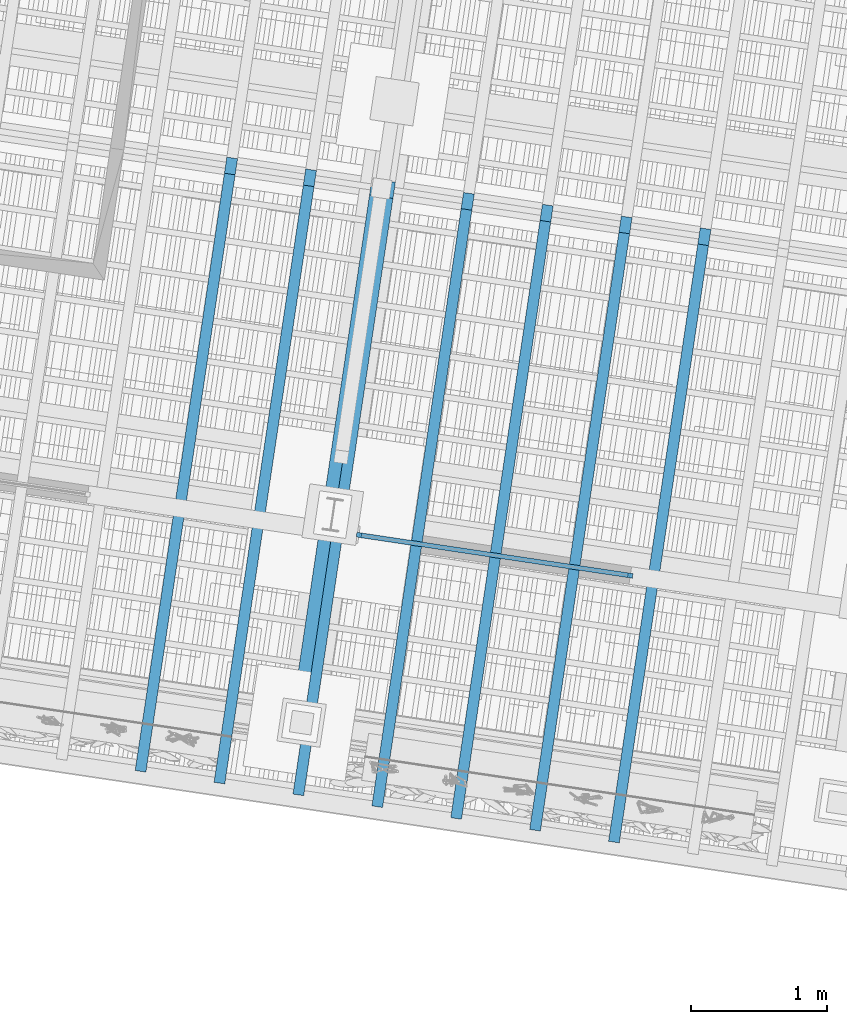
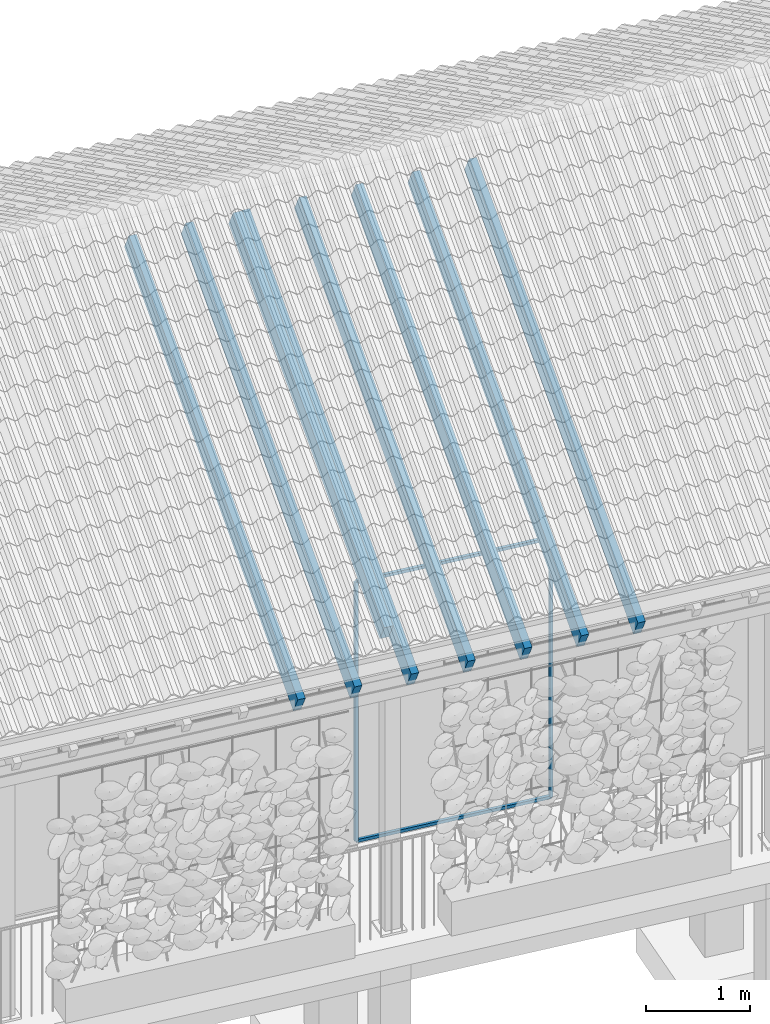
# One storey, part 93 of 131: 12 members, 1 element without a shape of its own.
"""IFC4 building model written with IfcOpenShell, lengths in metres."""

import ifcopenshell
import ifcopenshell.guid

model = None  # the IFC model being written
_history = None  # IfcOwnerHistory: only IFC2X3 demands one
_inside = {}  # id of a spatial element -> (the spatial element, [elements in it])
_under = {}  # id of a project, library or spatial element -> (it, [spatial elements below it])
_declared = {}  # id of a project -> (the project, [libraries it declares])
_typed = {}  # id of a type object -> (the type object, [elements of that type])
_made_of = {}  # id of a material, layer set ... -> (it, [elements and type objects made of it])


def new_model(schema):
    """Start an empty IFC model of exactly this schema.

    Asked for "IFC4X3", IfcOpenShell would pick the latest addendum, in which some entities
    have other attributes; the version numbers below select the first issue.
    IFC2X3 requires an IfcOwnerHistory on every rooted entity: one is made here for all.
    """
    global model, _history
    if schema == "IFC4X3":
        model = ifcopenshell.file(schema_version=(4, 3, 0, 0))
    else:
        model = ifcopenshell.file(schema=schema)
    _inside.clear()
    _under.clear()
    _declared.clear()
    _typed.clear()
    _made_of.clear()
    _history = None
    if model.schema == "IFC2X3":
        org = make("IfcOrganization", Name="unknown")
        user = make(
            "IfcPersonAndOrganization",
            ThePerson=make("IfcPerson", FamilyName="unknown"),
            TheOrganization=org,
        )
        app = make(
            "IfcApplication",
            ApplicationDeveloper=org,
            Version="unknown",
            ApplicationFullName="unknown",
            ApplicationIdentifier="unknown",
        )
        _history = make(
            "IfcOwnerHistory",
            OwningUser=user,
            OwningApplication=app,
            ChangeAction="ADDED",
            CreationDate=0,
        )
    return model


def make(cls, **values):
    """One entity of the class cls with the attributes given. An attribute that is None is left unset."""
    return model.create_entity(
        cls, **{name: value for name, value in values.items() if value is not None}
    )


def rooted(cls, **values):
    """An entity with a GlobalId (a new one), such as an element, a storey or a relation."""
    return make(cls, GlobalId=ifcopenshell.guid.new(), OwnerHistory=_history, **values)


def si_unit(unit_type, name, prefix=None):
    """IfcSIUnit, for example si_unit("LENGTHUNIT", "METRE", prefix="MILLI")."""
    return make("IfcSIUnit", UnitType=unit_type, Prefix=prefix, Name=name)


def assignment(units):
    """IfcUnitAssignment: the units of a project."""
    return None if units is None else make("IfcUnitAssignment", Units=units)


def point(xyz):
    """IfcCartesianPoint."""
    return None if xyz is None else make("IfcCartesianPoint", Coordinates=xyz)


def direction(xyz):
    """IfcDirection."""
    return None if xyz is None else make("IfcDirection", DirectionRatios=xyz)


def frame(location, z_axis=None, x_axis=None):
    """IfcAxis2Placement3D, a coordinate frame: its origin and axes. An axis left out is left unset."""
    return make(
        "IfcAxis2Placement3D",
        Location=point(location),
        Axis=direction(z_axis),
        RefDirection=direction(x_axis),
    )


def origin_with_axes():
    """The frame at (0, 0, 0) with the z axis (0, 0, 1) and the x axis (1, 0, 0) written out."""
    return frame((0.0, 0.0, 0.0), z_axis=(0.0, 0.0, 1.0), x_axis=(1.0, 0.0, 0.0))


def place(relative_to, where):
    """IfcLocalPlacement: puts the frame where relative to a parent placement (None: the world)."""
    return make(
        "IfcLocalPlacement", PlacementRelTo=relative_to, RelativePlacement=where
    )


def context(
    kind, dimensions, precision=None, world=None, true_north=None, identifier=None
):
    """IfcGeometricRepresentationContext, for example the 3D "Model" context."""
    return make(
        "IfcGeometricRepresentationContext",
        ContextIdentifier=identifier,
        ContextType=kind,
        CoordinateSpaceDimension=dimensions,
        Precision=precision,
        WorldCoordinateSystem=world,
        TrueNorth=true_north,
    )


def subcontext(parent, identifier, kind, view, scale=None):
    """IfcGeometricRepresentationSubContext, for example "Body" below "Model"."""
    return make(
        "IfcGeometricRepresentationSubContext",
        ContextIdentifier=identifier,
        ContextType=kind,
        ParentContext=parent,
        TargetScale=scale,
        TargetView=view,
    )


def project(units=None, contexts=None):
    """IfcProject with its units and contexts."""
    return rooted(
        "IfcProject",
        Name="project",
        RepresentationContexts=contexts,
        UnitsInContext=assignment(units),
    )


def spatial(cls, under=None, at=None, **own):
    """A site, building, storey or space (cls), placed at a placement, below another one or the project."""
    s = rooted(cls, ObjectPlacement=at, **own)
    if under is not None:
        _under.setdefault(under.id(), (under, []))[1].append(s)
    return s


def profile(cls, at=None, kind="AREA", **sizes):
    """A parametric profile (cls). Its sizes go by their IFC names, for example OverallWidth=200.0."""
    return make(cls, ProfileType=kind, Position=at, **sizes)


def rectangle(**sizes):
    """IfcRectangleProfileDef."""
    return profile("IfcRectangleProfileDef", **sizes)


def extrude(swept, where, along, depth):
    """IfcExtrudedAreaSolid: the profile swept, set in the frame where, extruded along a direction by depth."""
    return make(
        "IfcExtrudedAreaSolid",
        SweptArea=swept,
        Position=where,
        ExtrudedDirection=direction(along),
        Depth=depth,
    )


def shape(context_of_items, identifier, shape_type, items):
    """IfcShapeRepresentation: the items that make up one representation, for example the "Body"."""
    return make(
        "IfcShapeRepresentation",
        ContextOfItems=context_of_items,
        RepresentationIdentifier=identifier,
        RepresentationType=shape_type,
        Items=items,
    )


def material(Name=None, Category=None):
    """IfcMaterial."""
    return make("IfcMaterial", Name=Name, Category=Category)


def material_profile(
    of_material, cross_section, Name=None, Category=None, Priority=None
):
    """IfcMaterialProfile: a cross section and its material."""
    return make(
        "IfcMaterialProfile",
        Name=Name,
        Material=of_material,
        Profile=cross_section,
        Priority=Priority,
        Category=Category,
    )


def profile_set(profiles, Name=None, composite=None):
    """IfcMaterialProfileSet."""
    return make(
        "IfcMaterialProfileSet",
        Name=Name,
        MaterialProfiles=profiles,
        CompositeProfile=composite,
    )


def profile_usage(for_profile_set, cardinal=None, extent=None):
    """IfcMaterialProfileSetUsage: how a profile set lies along its element."""
    return make(
        "IfcMaterialProfileSetUsage",
        ForProfileSet=for_profile_set,
        CardinalPoint=cardinal,
        ReferenceExtent=extent,
    )


def made_of(thing, what):
    """Note that an element or type object is made of a material, layer set ...; save() writes the relation."""
    if what is not None:
        _made_of.setdefault(what.id(), (what, []))[1].append(thing)
    return thing


def type_object(cls, material=None, **own):
    """A type object (cls), such as IfcWallType, which elements share."""
    return made_of(rooted(cls, **own), material)


def element(
    cls,
    number,
    at=None,
    inside=None,
    cuts=None,
    type_object=None,
    material=None,
    context=None,
    identifier="Body",
    shape_type=None,
    held_by="IfcProductDefinitionShape",
    body=None,
    shapes=None,
    **own,
):
    """One element of the class cls, such as IfcWall. Its Tag is "e" and its number.

    at: its placement. inside: the storey or other place that contains it. cuts: it is an
    opening in that element (IfcRelVoidsElement). A single representation is given by context,
    identifier, shape_type and body (its items); several are given by shapes. held_by: the class
    of the entity that holds the representations. save() writes the other relations.
    """
    e = rooted(cls, Tag="e%d" % number, ObjectPlacement=at, **own)
    if body is not None:
        shapes = [shape(context, identifier, shape_type, body)]
    if shapes is not None:
        e.Representation = make(held_by, Representations=shapes)
    if inside is not None:
        _inside.setdefault(inside.id(), (inside, []))[1].append(e)
    if cuts is not None:
        rooted(
            "IfcRelVoidsElement", RelatingBuildingElement=cuts, RelatedOpeningElement=e
        )
    if type_object is not None:
        _typed.setdefault(type_object.id(), (type_object, []))[1].append(e)
    return made_of(e, material)


def aggregate(whole, parts):
    """IfcRelAggregates: a whole, such as a stair, and the parts it consists of."""
    return rooted("IfcRelAggregates", RelatingObject=whole, RelatedObjects=parts)


def save(model, path):
    """Write the relations noted so far, then the file.

    IfcRelAggregates (storeys below a building ...), IfcRelContainedInSpatialStructure (elements
    in a storey), IfcRelDefinesByType, IfcRelAssociatesMaterial and IfcRelDeclares: one each for
    every whole, place, type object, material and project.
    """
    for whole, parts in _under.values():
        aggregate(whole, parts)
    for where, things in _inside.values():
        rooted(
            "IfcRelContainedInSpatialStructure",
            RelatedElements=things,
            RelatingStructure=where,
        )
    for kind, things in _typed.values():
        rooted("IfcRelDefinesByType", RelatedObjects=things, RelatingType=kind)
    for what, things in _made_of.values():
        rooted("IfcRelAssociatesMaterial", RelatedObjects=things, RelatingMaterial=what)
    for by, libraries in _declared.values():
        rooted("IfcRelDeclares", RelatingContext=by, RelatedDefinitions=libraries)
    model.write(path)


model = new_model("IFC4")

# Units and contexts
model_context = context("Model", 3, precision=1e-05, world=origin_with_axes(), true_north=direction((0.0, 1.0)))
body_context = subcontext(model_context, "Body", "Model", "MODEL_VIEW")
ifc_project = project(units=[si_unit("VOLUMEUNIT", "CUBIC_METRE"), si_unit("LENGTHUNIT", "METRE"), si_unit("AREAUNIT", "SQUARE_METRE")], contexts=[model_context])

# Site, building, storey
site_placement = place(None, origin_with_axes())
site = spatial("IfcSite", under=ifc_project, at=site_placement, Name="Lares · Rua das Mercês · artigo 4771")
building_placement = place(site_placement, frame((15.0, 9.7, 15.8), z_axis=(0.0, 0.0, 1.0), x_axis=(0.989015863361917, -0.147809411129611, 0.0)))
building = spatial("IfcBuilding", under=site, at=building_placement, Name="Casa Sobreposta")
storey_placement = place(building_placement, origin_with_axes())
storey = spatial("IfcBuildingStorey", under=building, at=storey_placement, Name="00 · Habitação e estacionamento", Elevation=15.8)

# Members
ifc_material_1 = material(Name="Aço pintado / Stahl lackiert", Category="steel")
ifc_material_profile_1 = material_profile(ifc_material_1, rectangle(XDim=0.035, YDim=0.035))
ifc_profile_set_1 = profile_set([ifc_material_profile_1], Name="R0.035")
ifc_profile_usage_1 = profile_usage(ifc_profile_set_1)
member_type_1 = type_object("IfcMemberType", Name="R0.035 / steel", PredefinedType="NOTDEFINED", material=ifc_profile_set_1)
member_1_placement = place(storey_placement, frame((20.2133333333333, 0.0, 0.0), z_axis=(0.0, 0.0, 1.0), x_axis=(1.0, 0.0, 0.0)))
element("IfcMember", 1, at=member_1_placement, inside=storey, type_object=member_type_1, material=ifc_profile_usage_1, Name="Folha de correr sul 10 · montante", context=body_context, shape_type="SweptSolid", body=[
    extrude(rectangle(XDim=0.035, YDim=0.035), origin_with_axes(), (0.0, 0.0, 1.0), 3.05),
])
ifc_profile_usage_2 = profile_usage(ifc_profile_set_1)
member_2_placement = place(storey_placement, frame((22.2346666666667, 0.0, 0.0), z_axis=(0.0, 0.0, 1.0), x_axis=(1.0, 0.0, 0.0)))
element("IfcMember", 2, at=member_2_placement, inside=storey, type_object=member_type_1, material=ifc_profile_usage_2, Name="Folha de correr sul 10 · montante", context=body_context, shape_type="SweptSolid", body=[
    extrude(rectangle(XDim=0.035, YDim=0.035), origin_with_axes(), (0.0, 0.0, 1.0), 3.05),
])
ifc_profile_usage_3 = profile_usage(ifc_profile_set_1)
member_3_placement = place(storey_placement, frame((20.2133333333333, 0.0, 0.0), z_axis=(1.0, 0.0, 0.0), x_axis=(0.0, -1.0, 0.0)))
element("IfcMember", 3, at=member_3_placement, inside=storey, type_object=member_type_1, material=ifc_profile_usage_3, Name="Folha de correr sul 10 · travessa", context=body_context, shape_type="SweptSolid", body=[
    extrude(rectangle(XDim=0.035, YDim=0.035), origin_with_axes(), (0.0, 0.0, 1.0), 2.02133333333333),
])
ifc_profile_usage_4 = profile_usage(ifc_profile_set_1)
member_4_placement = place(storey_placement, frame((20.2133333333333, 0.0, 3.05), z_axis=(1.0, 0.0, 0.0), x_axis=(0.0, -1.0, 0.0)))
element("IfcMember", 4, at=member_4_placement, inside=storey, type_object=member_type_1, material=ifc_profile_usage_4, Name="Folha de correr sul 10 · travessa", context=body_context, shape_type="SweptSolid", body=[
    extrude(rectangle(XDim=0.035, YDim=0.035), origin_with_axes(), (0.0, 0.0, 1.0), 2.02133333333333),
])

# Roof, members
ifc_material_2 = material(Name="Madeira / Bauholz", Category="wood")
roof_placement = place(storey_placement, origin_with_axes())
roof = element("IfcRoof", 5, at=roof_placement, inside=storey, material=ifc_material_2, Name="Cobertura de telha · duas águas 30 graus", PredefinedType="GABLE_ROOF")
ifc_material_profile_2 = material_profile(ifc_material_2, rectangle(XDim=0.16, YDim=0.24))
ifc_profile_set_2 = profile_set([ifc_material_profile_2], Name="TIMBER0.160x0.240")
ifc_profile_usage_5 = profile_usage(ifc_profile_set_2)
member_type_2 = type_object("IfcMemberType", Name="TIMBER0.160x0.240 / timber", PredefinedType="NOTDEFINED", material=ifc_profile_set_2)
member_5_placement = place(roof_placement, frame((20.0, -1.43, 3.44635462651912), z_axis=(0.0, 0.866025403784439, 0.5), x_axis=(1.0, 0.0, 0.0)))
member_5 = element("IfcMember", 6, at=member_5_placement, type_object=member_type_2, material=ifc_profile_usage_5, Name="Tesoura · perna", context=body_context, shape_type="SweptSolid", body=[
    extrude(rectangle(XDim=0.16, YDim=0.24), origin_with_axes(), (0.0, 0.0, 1.0), 4.59570814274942),
])
ifc_material_profile_3 = material_profile(ifc_material_2, rectangle(XDim=0.08, YDim=0.24))
ifc_profile_set_3 = profile_set([ifc_material_profile_3], Name="TIMBER0.080x0.240")
ifc_profile_usage_6 = profile_usage(ifc_profile_set_3)
member_type_3 = type_object("IfcMemberType", Name="TIMBER0.080x0.240 / timber", PredefinedType="NOTDEFINED", material=ifc_profile_set_3)
member_6_placement = place(roof_placement, frame((18.8787878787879, -1.9, 3.181), z_axis=(0.0, 0.866025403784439, 0.5), x_axis=(1.0, 0.0, 0.0)))
member_6 = element("IfcMember", 7, at=member_6_placement, type_object=member_type_3, material=ifc_profile_usage_6, Name="Cobertura · caibro", context=body_context, shape_type="SweptSolid", body=[
    extrude(rectangle(XDim=0.08, YDim=0.24), origin_with_axes(), (0.0, 0.0, 1.0), 5.13841739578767),
])
ifc_profile_usage_7 = profile_usage(ifc_profile_set_3)
member_7_placement = place(roof_placement, frame((19.4666666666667, -1.9, 3.181), z_axis=(0.0, 0.866025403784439, 0.5), x_axis=(1.0, 0.0, 0.0)))
member_7 = element("IfcMember", 8, at=member_7_placement, type_object=member_type_3, material=ifc_profile_usage_7, Name="Cobertura · caibro", context=body_context, shape_type="SweptSolid", body=[
    extrude(rectangle(XDim=0.08, YDim=0.24), origin_with_axes(), (0.0, 0.0, 1.0), 5.13841739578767),
])
ifc_profile_usage_8 = profile_usage(ifc_profile_set_3)
member_8_placement = place(roof_placement, frame((20.0545454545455, -1.9, 3.181), z_axis=(0.0, 0.866025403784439, 0.5), x_axis=(1.0, 0.0, 0.0)))
member_8 = element("IfcMember", 9, at=member_8_placement, type_object=member_type_3, material=ifc_profile_usage_8, Name="Cobertura · caibro", context=body_context, shape_type="SweptSolid", body=[
    extrude(rectangle(XDim=0.08, YDim=0.24), origin_with_axes(), (0.0, 0.0, 1.0), 5.13841739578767),
])
ifc_profile_usage_9 = profile_usage(ifc_profile_set_3)
member_9_placement = place(roof_placement, frame((20.6424242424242, -1.9, 3.181), z_axis=(0.0, 0.866025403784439, 0.5), x_axis=(1.0, 0.0, 0.0)))
member_9 = element("IfcMember", 10, at=member_9_placement, type_object=member_type_3, material=ifc_profile_usage_9, Name="Cobertura · caibro", context=body_context, shape_type="SweptSolid", body=[
    extrude(rectangle(XDim=0.08, YDim=0.24), origin_with_axes(), (0.0, 0.0, 1.0), 5.13841739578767),
])
ifc_profile_usage_10 = profile_usage(ifc_profile_set_3)
member_10_placement = place(roof_placement, frame((21.230303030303, -1.9, 3.181), z_axis=(0.0, 0.866025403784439, 0.5), x_axis=(1.0, 0.0, 0.0)))
member_10 = element("IfcMember", 11, at=member_10_placement, type_object=member_type_3, material=ifc_profile_usage_10, Name="Cobertura · caibro", context=body_context, shape_type="SweptSolid", body=[
    extrude(rectangle(XDim=0.08, YDim=0.24), origin_with_axes(), (0.0, 0.0, 1.0), 5.13841739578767),
])
ifc_profile_usage_11 = profile_usage(ifc_profile_set_3)
member_11_placement = place(roof_placement, frame((21.8181818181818, -1.9, 3.181), z_axis=(0.0, 0.866025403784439, 0.5), x_axis=(1.0, 0.0, 0.0)))
member_11 = element("IfcMember", 12, at=member_11_placement, type_object=member_type_3, material=ifc_profile_usage_11, Name="Cobertura · caibro", context=body_context, shape_type="SweptSolid", body=[
    extrude(rectangle(XDim=0.08, YDim=0.24), origin_with_axes(), (0.0, 0.0, 1.0), 5.13841739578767),
])
ifc_profile_usage_12 = profile_usage(ifc_profile_set_3)
member_12_placement = place(roof_placement, frame((22.4060606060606, -1.9, 3.181), z_axis=(0.0, 0.866025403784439, 0.5), x_axis=(1.0, 0.0, 0.0)))
member_12 = element("IfcMember", 13, at=member_12_placement, type_object=member_type_3, material=ifc_profile_usage_12, Name="Cobertura · caibro", context=body_context, shape_type="SweptSolid", body=[
    extrude(rectangle(XDim=0.08, YDim=0.24), origin_with_axes(), (0.0, 0.0, 1.0), 5.13841739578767),
])
aggregate(roof, [member_5, member_6, member_7, member_8, member_9, member_10, member_11, member_12])

save(model, "model.ifc")
